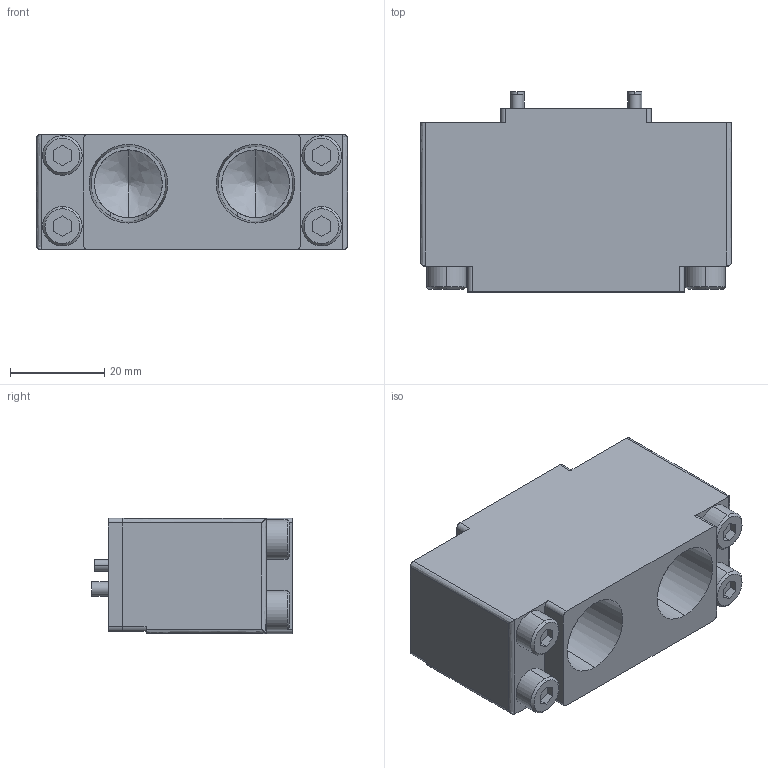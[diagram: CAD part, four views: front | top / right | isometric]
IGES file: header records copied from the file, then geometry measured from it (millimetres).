
Start section: 3D InterOp IGES (v. 2022 1.0.0), Spatial Corp. Copyright (c) 1999-2020.
Global section: file name: KHB-7RS-EP102_ver1.igs; native system: Spatial Corp.; preprocessor: 3D InterOp GENERIC/IGES 3.0; author: Noname; organization: Noname; date: 20260427.102610; units: millimetre
Bounding box: 66 x 42.5 x 24.5 mm (x, y, z)
Surface area: 17090.5 mm2 (no closed solid volume)
Topology: 0 solids, 0 shells, 215 faces, 994 edges, 990 vertices
Faces by surface type: revolution 115, extrusion 100
